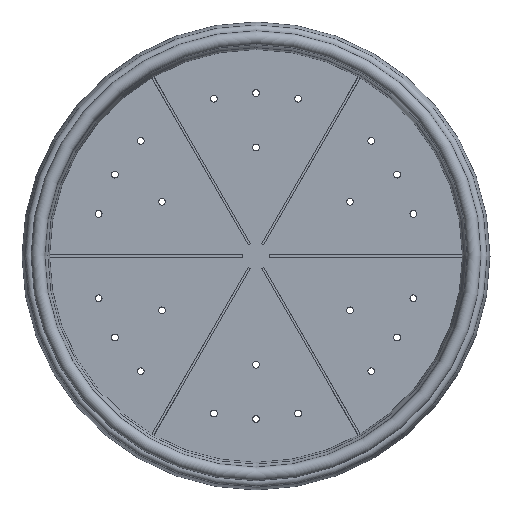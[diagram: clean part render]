
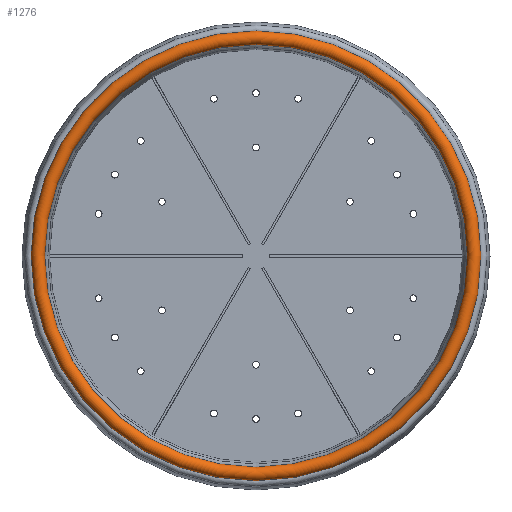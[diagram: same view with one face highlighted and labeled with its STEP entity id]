
A CAD part, top view. The second image highlights one B-rep face of the part: STEP entity #1276.
In plain terms, the highlighted toroidal (fillet/blend) face has major radius 160.68 mm and minor radius 5 mm.
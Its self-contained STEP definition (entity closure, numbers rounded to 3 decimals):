
#18=TOROIDAL_SURFACE('',#1441,160.68,5.);
#154=FACE_OUTER_BOUND('',#245,.T.);
#245=EDGE_LOOP('',(#1097,#1098,#1099,#1100));
#522=CIRCLE('',#1440,164.51);
#523=CIRCLE('',#1442,155.68);
#524=CIRCLE('',#1443,5.);
#643=VERTEX_POINT('',#2201);
#644=VERTEX_POINT('',#2205);
#810=EDGE_CURVE('',#643,#643,#522,.T.);
#812=EDGE_CURVE('',#644,#644,#523,.T.);
#813=EDGE_CURVE('',#644,#643,#524,.T.);
#1097=ORIENTED_EDGE('',*,*,#812,.F.);
#1098=ORIENTED_EDGE('',*,*,#813,.T.);
#1099=ORIENTED_EDGE('',*,*,#810,.T.);
#1100=ORIENTED_EDGE('',*,*,#813,.F.);
#1276=ADVANCED_FACE('',(#154),#18,.T.);
#1440=AXIS2_PLACEMENT_3D('',#2202,#1821,#1822);
#1441=AXIS2_PLACEMENT_3D('',#2204,#1824,#1825);
#1442=AXIS2_PLACEMENT_3D('',#2206,#1826,#1827);
#1443=AXIS2_PLACEMENT_3D('',#2207,#1828,#1829);
#1821=DIRECTION('center_axis',(0.,0.,1.));
#1822=DIRECTION('ref_axis',(1.,0.,0.));
#1824=DIRECTION('center_axis',(0.,0.,1.));
#1825=DIRECTION('ref_axis',(1.,0.,0.));
#1826=DIRECTION('center_axis',(0.,0.,1.));
#1827=DIRECTION('ref_axis',(1.,0.,0.));
#1828=DIRECTION('center_axis',(0.,-1.,0.));
#1829=DIRECTION('ref_axis',(-1.,0.,0.));
#2201=CARTESIAN_POINT('',(-164.51,0.,91.786));
#2202=CARTESIAN_POINT('Origin',(0.,0.,91.786));
#2204=CARTESIAN_POINT('Origin',(0.,0.,95.));
#2205=CARTESIAN_POINT('',(-155.68,0.,95.));
#2206=CARTESIAN_POINT('Origin',(0.,0.,95.));
#2207=CARTESIAN_POINT('Origin',(-160.68,0.,
95.));
